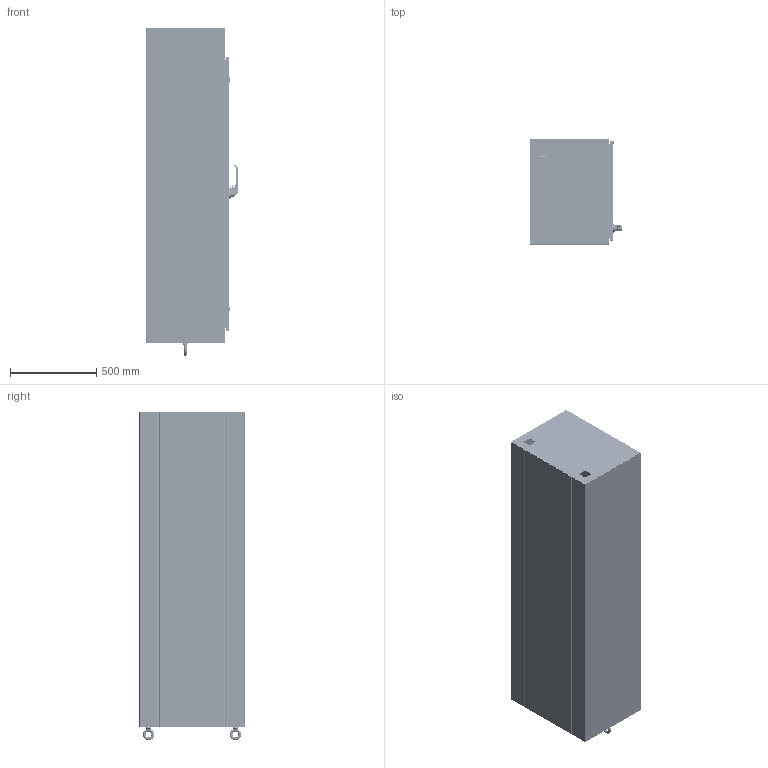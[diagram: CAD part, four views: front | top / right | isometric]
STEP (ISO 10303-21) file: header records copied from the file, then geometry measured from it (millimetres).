
FILE_DESCRIPTION((''),'2;1');
FILE_NAME('MODEL-244_ASM','2021-06-04T15:19:59',('johnh'),('SAGINAW CONTROL & ENGINEERING'),'CREO PARAMETRIC BY PTC INC, 2017260','CREO PARAMETRIC BY PTC INC, 2017260','');
FILE_SCHEMA(('AUTOMOTIVE_DESIGN { 1 0 10303 214 1 1 1 1 }'));
Length unit declared in the file: inch
Products named in the file (53): MODEL-244-L-SD; MODEL-244-TP; MODEL-244-R-SD; MODEL-244-BTM; MODEL-244-DR; 100837; 111267; 100882; 100954_HANDLE; 100954_HANDLE_INSERT; 100954_SHAFT_CAM; 100954_ADAPTER_CAM; 100954_NUT_CAM; 100954_BASE; 100954_NUT_MOUNTING_LARGE; 100954_NUT_MOUNTING_SMALL; 100954_SCREW_SMALL; 100954_INSERT; 100954_PADLOCK_CATCH; 100954_ASM; 102237; 100030; 102237_ASM; MODEL-244-ROD-UPR; 128146; 128145; 128144; 102482; MODEL-244-ROD-UPR_ASM; 128143; 112504; MODEL-244-ROD-LWR; MODEL-244-ROD-LWR_ASM; MODEL-244-PR-GSKT; 128257; 126397; 128257_ASM; 126393; 102483; 101369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
Assembly tree (94 placements, depth 4):
  MODEL-244_ASM
    MODEL-244-L-SD
    MODEL-244-TP
    MODEL-244-R-SD
    MODEL-244-BTM
    MODEL-244-DOOR-ASSY_ASM
      MODEL-244-DR
      100837  x5
      111267
      100882  x10
      100954_ASM
        100954_HANDLE
        100954_HANDLE_INSERT
        100954_SHAFT_CAM
        100954_ADAPTER_CAM
        100954_NUT_CAM
        100954_BASE
        100954_NUT_MOUNTING_LARGE
        100954_NUT_MOUNTING_SMALL
        100954_SCREW_SMALL
        100954_INSERT
        100954_PADLOCK_CATCH
      102237_ASM
        102237
        100030  x2
      MODEL-244-ROD-UPR_ASM
        MODEL-244-ROD-UPR
        128146
        128145
        128144
        102482  x2
      128143  x2
      112504  x2
      MODEL-244-ROD-LWR_ASM
        MODEL-244-ROD-LWR
        128146
        128145
        128144
        102482  x2
      MODEL-244-PR-GSKT
      128257_ASM  x3
        128257
        126397
      126393  x3
      102483  x3
      101369_ASM  x3
        101369
        101369-STUD
      101221  x3
    MODEL-244-BCK
    100837
    102254  x2
    MODEL-244-B42  x6
    MODEL-244-EBS  x2
    103300_ASM  x2
      100834
      109064
      114505
Bounding box: 534.37 x 609.6 x 1903.6 mm (x, y, z)
Volume: 15023888.7 mm3; surface area: 10985328.6 mm2
Topology: 94 solids, 94 shells, 9201 faces, 23956 edges, 15035 vertices
Faces by surface type: plane 3307, cylinder 2591, bspline 2001, cone 580, torus 528, sphere 194
Entity records: 246466 total; most frequent: CARTESIAN_POINT 80995, ORIENTED_EDGE 23988, DIRECTION 22275, PRESENTATION_STYLE_ASSIGNMENT 13040, STYLED_ITEM 12935, CURVE_STYLE 11994, EDGE_CURVE 11994, AXIS2_PLACEMENT_3D 8410
